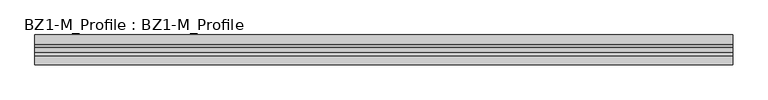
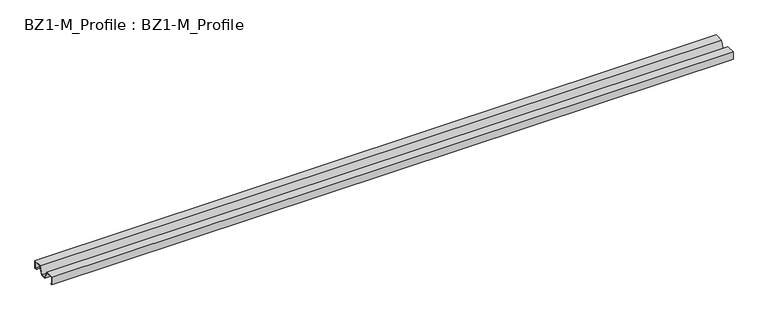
"""IFC4 building model written with IfcOpenShell, lengths in millimetres: beam geometry, BZ1-M_Profile : BZ1-M_Profile."""

from ifc_helpers import new_model, si_unit, frame, origin, place, context, project, spatial, polyline, outline, extrude, source, transform, mapped, element, save


def bz1_m_profile_bz1_m_profile_188adeeb(model_context):
    return source(origin(), model_context, "Body", "SweptSolid", [
        extrude(outline(polyline([(45.0, 25.0), (45.0, 0.0), (39.0, 0.0), (39.0, 1.0), (44.0, 1.0), (44.0, 24.0), (18.3051526, 24.0), (8.117757, 0.0), (-8.117757, 0.0), (-18.3051526, 24.0), (-44.0, 24.0), (-44.0, 1.0), (-39.0, 1.0), (-39.0, 0.0), (-45.0, 0.0), (-45.0, 25.0), (-17.643267, 25.0), (-7.4558714, 1.0), (7.4558714, 1.0), (17.643267, 25.0), (45.0, 25.0)])), frame((-1047.5, 0.0, 0.0), z_axis=(1.0, 0.0, 0.0), x_axis=(0.0, 1.0, 0.0)), (0.0, 0.0, 1.0), 2095.0),
    ])


if __name__ == "__main__":
    model = new_model("IFC4")
    model_context = context("Model", 3, world=origin())
    ifc_project = project(units=[si_unit("LENGTHUNIT", "METRE", prefix="MILLI")], contexts=[model_context])
    site = spatial("IfcSite", under=ifc_project)
    building = spatial("IfcBuilding", under=site)
    placement = place(None, origin())
    bz1_m_profile_bz1_m_profile_shape = bz1_m_profile_bz1_m_profile_188adeeb(model_context)
    element("IfcBeam", 1, ObjectType="BZ1-M_Profile : BZ1-M_Profile", at=placement, inside=building, context=model_context, shape_type="MappedRepresentation", body=[
        mapped(bz1_m_profile_bz1_m_profile_shape, transform((0.0, 0.0, 0.0), x_axis=(1.0, 0.0, 0.0), y_axis=(0.0, 1.0, 0.0), z_axis=(0.0, 0.0, 1.0))),
    ])
    save(model, "model.ifc")
